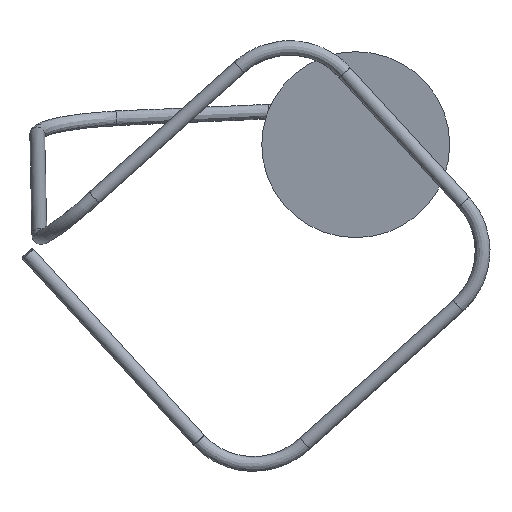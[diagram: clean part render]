
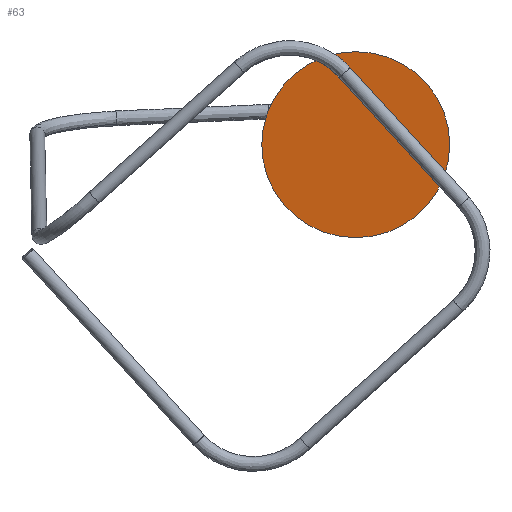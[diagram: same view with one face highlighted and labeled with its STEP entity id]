
A CAD part, front view. The second image highlights one B-rep face of the part: STEP entity #63.
In plain terms, the highlighted free-form (B-spline) face has degree [1, 1] with [2, 2] control points.
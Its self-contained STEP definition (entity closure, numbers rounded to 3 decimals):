
#63=ADVANCED_FACE('',(#91),#92,.F.);
#91=FACE_OUTER_BOUND('',#2397,.T.);
#92=B_SPLINE_SURFACE_WITH_KNOTS('',1,1,((#2398,#2399),(#2400,#2401)),.UNSPECIFIED.,.F.,.F.,.F.,(2,2),(2,2),(0.0,1.0),(0.0,1.0),.UNSPECIFIED.);
#2397=EDGE_LOOP('',(#8270));
#2398=CARTESIAN_POINT('',(-75.682,71.685,-114.445));
#2399=CARTESIAN_POINT('',(-75.682,52.718,12.481));
#2400=CARTESIAN_POINT('',(52.652,72.363,-114.344));
#2401=CARTESIAN_POINT('',(52.652,53.396,12.583));
#8270=ORIENTED_EDGE('',*,*,#8349,.T.);
#8349=EDGE_CURVE('',#8390,#8390,#8391,.F.);
#8390=VERTEX_POINT('',#8462);
#8391=CIRCLE('',#8463,63.407);
#8462=CARTESIAN_POINT('',(-11.515,71.911,-113.642));
#8463=AXIS2_PLACEMENT_3D('',#8645,#8646,#8647);
#8645=CARTESIAN_POINT('',(-11.515,62.541,-50.931));
#8646=DIRECTION('',(0.005,-0.989,-0.148));
#8647=DIRECTION('',(0.,0.148,-0.989));
